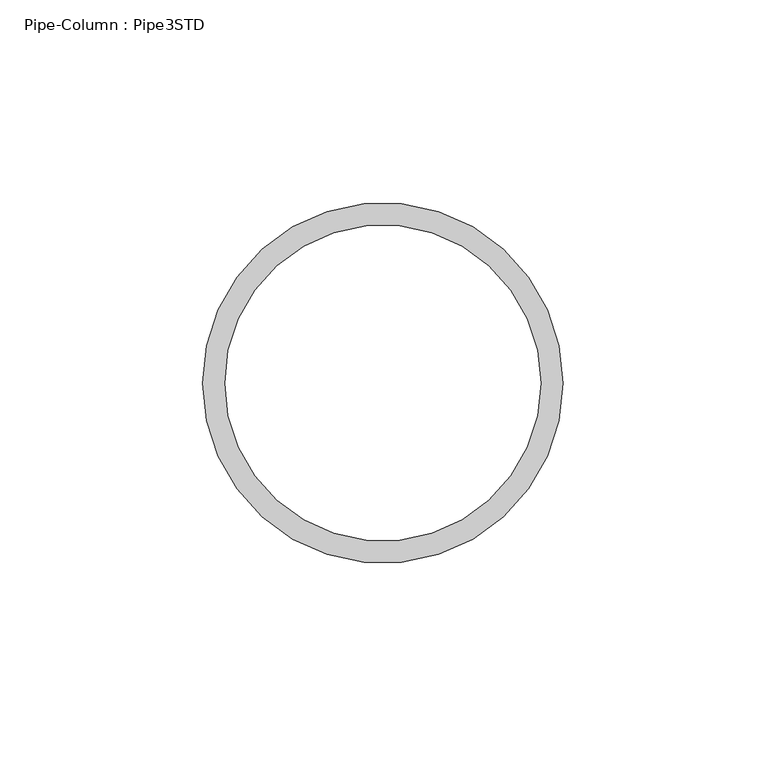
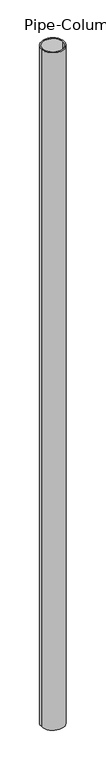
"""IFC4 building model written with IfcOpenShell, lengths in millimetres: column geometry, Pipe-Column : Pipe3STD."""

import ifcopenshell
import ifcopenshell.guid

model = None  # the IFC model being written
_history = None  # IfcOwnerHistory: only IFC2X3 demands one
_inside = {}  # id of a spatial element -> (the spatial element, [elements in it])
_under = {}  # id of a project, library or spatial element -> (it, [spatial elements below it])
_declared = {}  # id of a project -> (the project, [libraries it declares])
_typed = {}  # id of a type object -> (the type object, [elements of that type])
_made_of = {}  # id of a material, layer set ... -> (it, [elements and type objects made of it])


def new_model(schema):
    """Start an empty IFC model of exactly this schema.

    Asked for "IFC4X3", IfcOpenShell would pick the latest addendum, in which some entities
    have other attributes; the version numbers below select the first issue.
    IFC2X3 requires an IfcOwnerHistory on every rooted entity: one is made here for all.
    """
    global model, _history
    if schema == "IFC4X3":
        model = ifcopenshell.file(schema_version=(4, 3, 0, 0))
    else:
        model = ifcopenshell.file(schema=schema)
    _inside.clear()
    _under.clear()
    _declared.clear()
    _typed.clear()
    _made_of.clear()
    _history = None
    if model.schema == "IFC2X3":
        org = make("IfcOrganization", Name="unknown")
        user = make(
            "IfcPersonAndOrganization",
            ThePerson=make("IfcPerson", FamilyName="unknown"),
            TheOrganization=org,
        )
        app = make(
            "IfcApplication",
            ApplicationDeveloper=org,
            Version="unknown",
            ApplicationFullName="unknown",
            ApplicationIdentifier="unknown",
        )
        _history = make(
            "IfcOwnerHistory",
            OwningUser=user,
            OwningApplication=app,
            ChangeAction="ADDED",
            CreationDate=0,
        )
    return model


def make(cls, **values):
    """One entity of the class cls with the attributes given. An attribute that is None is left unset."""
    return model.create_entity(
        cls, **{name: value for name, value in values.items() if value is not None}
    )


def rooted(cls, **values):
    """An entity with a GlobalId (a new one), such as an element, a storey or a relation."""
    return make(cls, GlobalId=ifcopenshell.guid.new(), OwnerHistory=_history, **values)


def si_unit(unit_type, name, prefix=None):
    """IfcSIUnit, for example si_unit("LENGTHUNIT", "METRE", prefix="MILLI")."""
    return make("IfcSIUnit", UnitType=unit_type, Prefix=prefix, Name=name)


def assignment(units):
    """IfcUnitAssignment: the units of a project."""
    return None if units is None else make("IfcUnitAssignment", Units=units)


def point(xyz):
    """IfcCartesianPoint."""
    return None if xyz is None else make("IfcCartesianPoint", Coordinates=xyz)


def direction(xyz):
    """IfcDirection."""
    return None if xyz is None else make("IfcDirection", DirectionRatios=xyz)


def frame(location, z_axis=None, x_axis=None):
    """IfcAxis2Placement3D, a coordinate frame: its origin and axes. An axis left out is left unset."""
    return make(
        "IfcAxis2Placement3D",
        Location=point(location),
        Axis=direction(z_axis),
        RefDirection=direction(x_axis),
    )


def frame_2d(location, x_axis=None):
    """IfcAxis2Placement2D, a coordinate frame in the plane: its origin and x axis."""
    return make(
        "IfcAxis2Placement2D", Location=point(location), RefDirection=direction(x_axis)
    )


def origin():
    """The frame at (0, 0, 0) with its axes left unset."""
    return frame((0.0, 0.0, 0.0))


def origin_2d():
    """The frame at (0, 0) in the plane with its x axis left unset."""
    return frame_2d((0.0, 0.0))


def place(relative_to, where):
    """IfcLocalPlacement: puts the frame where relative to a parent placement (None: the world)."""
    return make(
        "IfcLocalPlacement", PlacementRelTo=relative_to, RelativePlacement=where
    )


def context(
    kind, dimensions, precision=None, world=None, true_north=None, identifier=None
):
    """IfcGeometricRepresentationContext, for example the 3D "Model" context."""
    return make(
        "IfcGeometricRepresentationContext",
        ContextIdentifier=identifier,
        ContextType=kind,
        CoordinateSpaceDimension=dimensions,
        Precision=precision,
        WorldCoordinateSystem=world,
        TrueNorth=true_north,
    )


def project(units=None, contexts=None):
    """IfcProject with its units and contexts."""
    return rooted(
        "IfcProject",
        Name="project",
        RepresentationContexts=contexts,
        UnitsInContext=assignment(units),
    )


def spatial(cls, under=None, at=None, **own):
    """A site, building, storey or space (cls), placed at a placement, below another one or the project."""
    s = rooted(cls, ObjectPlacement=at, **own)
    if under is not None:
        _under.setdefault(under.id(), (under, []))[1].append(s)
    return s


def circle_curve(where, radius):
    """IfcCircle in the frame where."""
    return make("IfcCircle", Position=where, Radius=radius)


def trimmed(basis, trim1, trim2, sense, master):
    """IfcTrimmedCurve: the piece of a basis curve between two trims."""
    return make(
        "IfcTrimmedCurve",
        BasisCurve=basis,
        Trim1=trim1,
        Trim2=trim2,
        SenseAgreement=sense,
        MasterRepresentation=master,
    )


def segment(curve, same_sense, transition):
    """IfcCompositeCurveSegment."""
    return make(
        "IfcCompositeCurveSegment",
        Transition=transition,
        SameSense=same_sense,
        ParentCurve=curve,
    )


def composite_curve(segments, self_intersect=None):
    """IfcCompositeCurve: segments joined end to end."""
    return make("IfcCompositeCurve", Segments=segments, SelfIntersect=self_intersect)


def outline(outer, holes=None, kind="AREA"):
    """IfcArbitraryClosedProfileDef: a profile drawn as a closed curve; with holes, ...WithVoids."""
    if holes is None:
        return make("IfcArbitraryClosedProfileDef", ProfileType=kind, OuterCurve=outer)
    return make(
        "IfcArbitraryProfileDefWithVoids",
        ProfileType=kind,
        OuterCurve=outer,
        InnerCurves=holes,
    )


def extrude(swept, where, along, depth):
    """IfcExtrudedAreaSolid: the profile swept, set in the frame where, extruded along a direction by depth."""
    return make(
        "IfcExtrudedAreaSolid",
        SweptArea=swept,
        Position=where,
        ExtrudedDirection=direction(along),
        Depth=depth,
    )


def shape(context_of_items, identifier, shape_type, items):
    """IfcShapeRepresentation: the items that make up one representation, for example the "Body"."""
    return make(
        "IfcShapeRepresentation",
        ContextOfItems=context_of_items,
        RepresentationIdentifier=identifier,
        RepresentationType=shape_type,
        Items=items,
    )


def source(mapping_origin, context_of_items, identifier, shape_type, items):
    """IfcRepresentationMap: a shape defined once, which mapped items show again and again."""
    return make(
        "IfcRepresentationMap",
        MappingOrigin=mapping_origin,
        MappedRepresentation=shape(context_of_items, identifier, shape_type, items),
    )


def transform(
    local_origin,
    x_axis=None,
    y_axis=None,
    z_axis=None,
    scale=None,
    scale2=None,
    scale3=None,
    uniform=True,
):
    """IfcCartesianTransformationOperator3D, or its non-uniform kind. x_axis, y_axis, z_axis: its Axis1, 2, 3."""
    if uniform:
        return make(
            "IfcCartesianTransformationOperator3D",
            Axis1=direction(x_axis),
            Axis2=direction(y_axis),
            LocalOrigin=point(local_origin),
            Scale=scale,
            Axis3=direction(z_axis),
        )
    return make(
        "IfcCartesianTransformationOperator3DnonUniform",
        Axis1=direction(x_axis),
        Axis2=direction(y_axis),
        LocalOrigin=point(local_origin),
        Scale=scale,
        Axis3=direction(z_axis),
        Scale2=scale2,
        Scale3=scale3,
    )


def mapped(mapping_source, mapping_target):
    """IfcMappedItem: shows the shape of a source again, moved by a transform."""
    return make(
        "IfcMappedItem", MappingSource=mapping_source, MappingTarget=mapping_target
    )


def made_of(thing, what):
    """Note that an element or type object is made of a material, layer set ...; save() writes the relation."""
    if what is not None:
        _made_of.setdefault(what.id(), (what, []))[1].append(thing)
    return thing


def element(
    cls,
    number,
    at=None,
    inside=None,
    cuts=None,
    type_object=None,
    material=None,
    context=None,
    identifier="Body",
    shape_type=None,
    held_by="IfcProductDefinitionShape",
    body=None,
    shapes=None,
    **own,
):
    """One element of the class cls, such as IfcWall. Its Tag is "e" and its number.

    at: its placement. inside: the storey or other place that contains it. cuts: it is an
    opening in that element (IfcRelVoidsElement). A single representation is given by context,
    identifier, shape_type and body (its items); several are given by shapes. held_by: the class
    of the entity that holds the representations. save() writes the other relations.
    """
    e = rooted(cls, Tag="e%d" % number, ObjectPlacement=at, **own)
    if body is not None:
        shapes = [shape(context, identifier, shape_type, body)]
    if shapes is not None:
        e.Representation = make(held_by, Representations=shapes)
    if inside is not None:
        _inside.setdefault(inside.id(), (inside, []))[1].append(e)
    if cuts is not None:
        rooted(
            "IfcRelVoidsElement", RelatingBuildingElement=cuts, RelatedOpeningElement=e
        )
    if type_object is not None:
        _typed.setdefault(type_object.id(), (type_object, []))[1].append(e)
    return made_of(e, material)


def aggregate(whole, parts):
    """IfcRelAggregates: a whole, such as a stair, and the parts it consists of."""
    return rooted("IfcRelAggregates", RelatingObject=whole, RelatedObjects=parts)


def save(model, path):
    """Write the relations noted so far, then the file.

    IfcRelAggregates (storeys below a building ...), IfcRelContainedInSpatialStructure (elements
    in a storey), IfcRelDefinesByType, IfcRelAssociatesMaterial and IfcRelDeclares: one each for
    every whole, place, type object, material and project.
    """
    for whole, parts in _under.values():
        aggregate(whole, parts)
    for where, things in _inside.values():
        rooted(
            "IfcRelContainedInSpatialStructure",
            RelatedElements=things,
            RelatingStructure=where,
        )
    for kind, things in _typed.values():
        rooted("IfcRelDefinesByType", RelatedObjects=things, RelatingType=kind)
    for what, things in _made_of.values():
        rooted("IfcRelAssociatesMaterial", RelatedObjects=things, RelatingMaterial=what)
    for by, libraries in _declared.values():
        rooted("IfcRelDeclares", RelatingContext=by, RelatedDefinitions=libraries)
    model.write(path)


def pipe_column_pipe3std_637a24f6(model_context):
    return source(origin(), model_context, "Body", "SweptSolid", [
        extrude(outline(composite_curve([segment(trimmed(circle_curve(origin_2d(), 44.45), [point((-44.45, 0.0))], [point((44.45, 0.0))], False, "CARTESIAN"), True, "CONTINUOUS"), segment(trimmed(circle_curve(origin_2d(), 44.45), [point((44.45, 0.0))], [point((-44.45, 0.0))], False, "CARTESIAN"), True, "CONTINUOUS")], self_intersect=False), holes=[composite_curve([segment(trimmed(circle_curve(origin_2d(), 38.9636), [point((-38.9636, 0.0))], [point((38.9636, 0.0))], True, "CARTESIAN"), True, "CONTINUOUS"), segment(trimmed(circle_curve(origin_2d(), 38.9636), [point((38.9636, 0.0))], [point((-38.9636, 0.0))], True, "CARTESIAN"), True, "CONTINUOUS")], self_intersect=False)]), frame((0.0, 0.0, -3016.25), z_axis=(0.0, 0.0, 1.0), x_axis=(1.0, 0.0, 0.0)), (0.0, 0.0, 1.0), 2757.4875),
    ])


if __name__ == "__main__":
    model = new_model("IFC4")
    model_context = context("Model", 3, world=origin())
    ifc_project = project(units=[si_unit("LENGTHUNIT", "METRE", prefix="MILLI")], contexts=[model_context])
    site = spatial("IfcSite", under=ifc_project)
    building = spatial("IfcBuilding", under=site)
    placement = place(None, origin())
    pipe_column_pipe3std_shape = pipe_column_pipe3std_637a24f6(model_context)
    element("IfcColumn", 1, ObjectType="Pipe-Column : Pipe3STD", at=placement, inside=building, context=model_context, shape_type="MappedRepresentation", body=[
        mapped(pipe_column_pipe3std_shape, transform((0.0, 0.0, 0.0), x_axis=(1.0, 0.0, 0.0), y_axis=(0.0, 1.0, 0.0), z_axis=(0.0, 0.0, 1.0))),
    ])
    save(model, "model.ifc")
